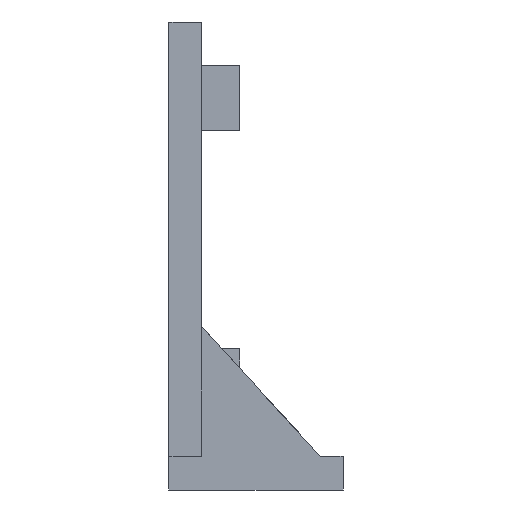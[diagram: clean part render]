
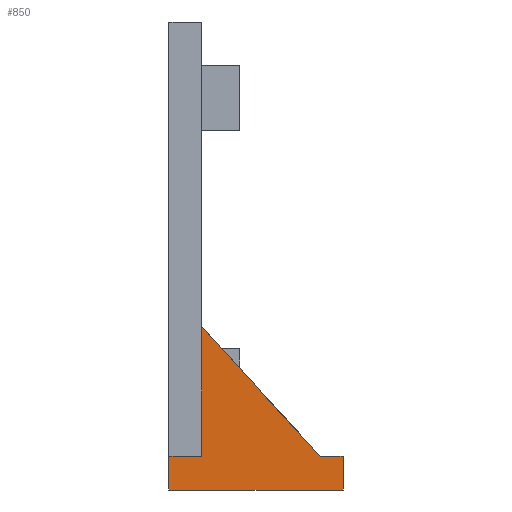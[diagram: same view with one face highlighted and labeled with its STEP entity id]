
A CAD part, left-side view. The second image highlights one B-rep face of the part: STEP entity #850.
In plain terms, the highlighted planar face has unit normal (-1, 0, 0).
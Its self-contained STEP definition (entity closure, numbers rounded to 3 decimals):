
#32 = PLANE('',#33);
#33 = AXIS2_PLACEMENT_3D('',#34,#35,#36);
#34 = CARTESIAN_POINT('',(-30.,34.,100.6));
#35 = DIRECTION('',(0.,1.,0.));
#36 = DIRECTION('',(0.,0.,1.));
#57 = VERTEX_POINT('',#58);
#58 = CARTESIAN_POINT('',(-31.,34.,97.6));
#72 = PLANE('',#73);
#73 = AXIS2_PLACEMENT_3D('',#74,#75,#76);
#74 = CARTESIAN_POINT('',(-31.,18.,97.6));
#75 = DIRECTION('',(0.,0.,1.));
#76 = DIRECTION('',(1.,0.,0.));
#84 = EDGE_CURVE('',#57,#85,#87,.T.);
#85 = VERTEX_POINT('',#86);
#86 = CARTESIAN_POINT('',(-31.,34.,100.7));
#87 = SURFACE_CURVE('',#88,(#92,#99),.PCURVE_S1.);
#88 = LINE('',#89,#90);
#89 = CARTESIAN_POINT('',(-31.,34.,97.6));
#90 = VECTOR('',#91,1.);
#91 = DIRECTION('',(0.,0.,1.));
#92 = PCURVE('',#32,#93);
#93 = DEFINITIONAL_REPRESENTATION('',(#94),#98);
#94 = LINE('',#95,#96);
#95 = CARTESIAN_POINT('',(-3.,-1.));
#96 = VECTOR('',#97,1.);
#97 = DIRECTION('',(1.,0.));
#98 = ( GEOMETRIC_REPRESENTATION_CONTEXT(2) 
PARAMETRIC_REPRESENTATION_CONTEXT() REPRESENTATION_CONTEXT('2D SPACE',''
  ) );
#99 = PCURVE('',#100,#105);
#100 = PLANE('',#101);
#101 = AXIS2_PLACEMENT_3D('',#102,#103,#104);
#102 = CARTESIAN_POINT('',(-31.,18.,97.6));
#103 = DIRECTION('',(1.,0.,0.));
#104 = DIRECTION('',(0.,0.,1.));
#105 = DEFINITIONAL_REPRESENTATION('',(#106),#110);
#106 = LINE('',#107,#108);
#107 = CARTESIAN_POINT('',(0.,-16.));
#108 = VECTOR('',#109,1.);
#109 = DIRECTION('',(1.,0.));
#110 = ( GEOMETRIC_REPRESENTATION_CONTEXT(2) 
PARAMETRIC_REPRESENTATION_CONTEXT() REPRESENTATION_CONTEXT('2D SPACE',''
  ) );
#128 = PLANE('',#129);
#129 = AXIS2_PLACEMENT_3D('',#130,#131,#132);
#130 = CARTESIAN_POINT('',(-31.,18.,100.7));
#131 = DIRECTION('',(0.,0.,1.));
#132 = DIRECTION('',(1.,0.,0.));
#617 = PLANE('',#618);
#618 = AXIS2_PLACEMENT_3D('',#619,#620,#621);
#619 = CARTESIAN_POINT('',(-31.,18.,100.7));
#620 = DIRECTION('',(0.,0.,1.));
#621 = DIRECTION('',(1.,0.,0.));
#645 = PLANE('',#646);
#646 = AXIS2_PLACEMENT_3D('',#647,#648,#649);
#647 = CARTESIAN_POINT('',(-31.,18.,97.6));
#648 = DIRECTION('',(0.,1.,0.));
#649 = DIRECTION('',(0.,0.,1.));
#727 = EDGE_CURVE('',#728,#57,#730,.T.);
#728 = VERTEX_POINT('',#729);
#729 = CARTESIAN_POINT('',(-31.,18.,97.6));
#730 = SURFACE_CURVE('',#731,(#735,#742),.PCURVE_S1.);
#731 = LINE('',#732,#733);
#732 = CARTESIAN_POINT('',(-31.,18.,97.6));
#733 = VECTOR('',#734,1.);
#734 = DIRECTION('',(0.,1.,0.));
#735 = PCURVE('',#72,#736);
#736 = DEFINITIONAL_REPRESENTATION('',(#737),#741);
#737 = LINE('',#738,#739);
#738 = CARTESIAN_POINT('',(0.,0.));
#739 = VECTOR('',#740,1.);
#740 = DIRECTION('',(0.,1.));
#741 = ( GEOMETRIC_REPRESENTATION_CONTEXT(2) 
PARAMETRIC_REPRESENTATION_CONTEXT() REPRESENTATION_CONTEXT('2D SPACE',''
  ) );
#742 = PCURVE('',#100,#743);
#743 = DEFINITIONAL_REPRESENTATION('',(#744),#748);
#744 = LINE('',#745,#746);
#745 = CARTESIAN_POINT('',(0.,0.));
#746 = VECTOR('',#747,1.);
#747 = DIRECTION('',(0.,-1.));
#748 = ( GEOMETRIC_REPRESENTATION_CONTEXT(2) 
PARAMETRIC_REPRESENTATION_CONTEXT() REPRESENTATION_CONTEXT('2D SPACE',''
  ) );
#850 = ADVANCED_FACE('',(#851),#100,.F.);
#851 = FACE_BOUND('',#852,.F.);
#852 = EDGE_LOOP('',(#853,#878,#899,#900,#901,#924,#952));
#853 = ORIENTED_EDGE('',*,*,#854,.F.);
#854 = EDGE_CURVE('',#855,#857,#859,.T.);
#855 = VERTEX_POINT('',#856);
#856 = CARTESIAN_POINT('',(-31.,18.,100.7));
#857 = VERTEX_POINT('',#858);
#858 = CARTESIAN_POINT('',(-31.,20.092,100.7));
#859 = SURFACE_CURVE('',#860,(#864,#871),.PCURVE_S1.);
#860 = LINE('',#861,#862);
#861 = CARTESIAN_POINT('',(-31.,18.,100.7));
#862 = VECTOR('',#863,1.);
#863 = DIRECTION('',(0.,1.,0.));
#864 = PCURVE('',#100,#865);
#865 = DEFINITIONAL_REPRESENTATION('',(#866),#870);
#866 = LINE('',#867,#868);
#867 = CARTESIAN_POINT('',(3.1,0.));
#868 = VECTOR('',#869,1.);
#869 = DIRECTION('',(0.,-1.));
#870 = ( GEOMETRIC_REPRESENTATION_CONTEXT(2) 
PARAMETRIC_REPRESENTATION_CONTEXT() REPRESENTATION_CONTEXT('2D SPACE',''
  ) );
#871 = PCURVE('',#617,#872);
#872 = DEFINITIONAL_REPRESENTATION('',(#873),#877);
#873 = LINE('',#874,#875);
#874 = CARTESIAN_POINT('',(0.,0.));
#875 = VECTOR('',#876,1.);
#876 = DIRECTION('',(0.,1.));
#877 = ( GEOMETRIC_REPRESENTATION_CONTEXT(2) 
PARAMETRIC_REPRESENTATION_CONTEXT() REPRESENTATION_CONTEXT('2D SPACE',''
  ) );
#878 = ORIENTED_EDGE('',*,*,#879,.F.);
#879 = EDGE_CURVE('',#728,#855,#880,.T.);
#880 = SURFACE_CURVE('',#881,(#885,#892),.PCURVE_S1.);
#881 = LINE('',#882,#883);
#882 = CARTESIAN_POINT('',(-31.,18.,97.6));
#883 = VECTOR('',#884,1.);
#884 = DIRECTION('',(0.,0.,1.));
#885 = PCURVE('',#100,#886);
#886 = DEFINITIONAL_REPRESENTATION('',(#887),#891);
#887 = LINE('',#888,#889);
#888 = CARTESIAN_POINT('',(0.,0.));
#889 = VECTOR('',#890,1.);
#890 = DIRECTION('',(1.,0.));
#891 = ( GEOMETRIC_REPRESENTATION_CONTEXT(2) 
PARAMETRIC_REPRESENTATION_CONTEXT() REPRESENTATION_CONTEXT('2D SPACE',''
  ) );
#892 = PCURVE('',#645,#893);
#893 = DEFINITIONAL_REPRESENTATION('',(#894),#898);
#894 = LINE('',#895,#896);
#895 = CARTESIAN_POINT('',(0.,0.));
#896 = VECTOR('',#897,1.);
#897 = DIRECTION('',(1.,0.));
#898 = ( GEOMETRIC_REPRESENTATION_CONTEXT(2) 
PARAMETRIC_REPRESENTATION_CONTEXT() REPRESENTATION_CONTEXT('2D SPACE',''
  ) );
#899 = ORIENTED_EDGE('',*,*,#727,.T.);
#900 = ORIENTED_EDGE('',*,*,#84,.T.);
#901 = ORIENTED_EDGE('',*,*,#902,.F.);
#902 = EDGE_CURVE('',#903,#85,#905,.T.);
#903 = VERTEX_POINT('',#904);
#904 = CARTESIAN_POINT('',(-31.,31.,100.7));
#905 = SURFACE_CURVE('',#906,(#910,#917),.PCURVE_S1.);
#906 = LINE('',#907,#908);
#907 = CARTESIAN_POINT('',(-31.,18.,100.7));
#908 = VECTOR('',#909,1.);
#909 = DIRECTION('',(0.,1.,0.));
#910 = PCURVE('',#100,#911);
#911 = DEFINITIONAL_REPRESENTATION('',(#912),#916);
#912 = LINE('',#913,#914);
#913 = CARTESIAN_POINT('',(3.1,0.));
#914 = VECTOR('',#915,1.);
#915 = DIRECTION('',(0.,-1.));
#916 = ( GEOMETRIC_REPRESENTATION_CONTEXT(2) 
PARAMETRIC_REPRESENTATION_CONTEXT() REPRESENTATION_CONTEXT('2D SPACE',''
  ) );
#917 = PCURVE('',#128,#918);
#918 = DEFINITIONAL_REPRESENTATION('',(#919),#923);
#919 = LINE('',#920,#921);
#920 = CARTESIAN_POINT('',(0.,0.));
#921 = VECTOR('',#922,1.);
#922 = DIRECTION('',(0.,1.));
#923 = ( GEOMETRIC_REPRESENTATION_CONTEXT(2) 
PARAMETRIC_REPRESENTATION_CONTEXT() REPRESENTATION_CONTEXT('2D SPACE',''
  ) );
#924 = ORIENTED_EDGE('',*,*,#925,.T.);
#925 = EDGE_CURVE('',#903,#926,#928,.T.);
#926 = VERTEX_POINT('',#927);
#927 = CARTESIAN_POINT('',(-31.,31.,112.6));
#928 = SURFACE_CURVE('',#929,(#933,#940),.PCURVE_S1.);
#929 = LINE('',#930,#931);
#930 = CARTESIAN_POINT('',(-31.,31.,100.6));
#931 = VECTOR('',#932,1.);
#932 = DIRECTION('',(0.,0.,1.));
#933 = PCURVE('',#100,#934);
#934 = DEFINITIONAL_REPRESENTATION('',(#935),#939);
#935 = LINE('',#936,#937);
#936 = CARTESIAN_POINT('',(3.,-13.));
#937 = VECTOR('',#938,1.);
#938 = DIRECTION('',(1.,0.));
#939 = ( GEOMETRIC_REPRESENTATION_CONTEXT(2) 
PARAMETRIC_REPRESENTATION_CONTEXT() REPRESENTATION_CONTEXT('2D SPACE',''
  ) );
#940 = PCURVE('',#941,#946);
#941 = PLANE('',#942);
#942 = AXIS2_PLACEMENT_3D('',#943,#944,#945);
#943 = CARTESIAN_POINT('',(-31.,31.,100.6));
#944 = DIRECTION('',(0.,-1.,0.));
#945 = DIRECTION('',(0.,0.,1.));
#946 = DEFINITIONAL_REPRESENTATION('',(#947),#951);
#947 = LINE('',#948,#949);
#948 = CARTESIAN_POINT('',(0.,0.));
#949 = VECTOR('',#950,1.);
#950 = DIRECTION('',(1.,0.));
#951 = ( GEOMETRIC_REPRESENTATION_CONTEXT(2) 
PARAMETRIC_REPRESENTATION_CONTEXT() REPRESENTATION_CONTEXT('2D SPACE',''
  ) );
#952 = ORIENTED_EDGE('',*,*,#953,.T.);
#953 = EDGE_CURVE('',#926,#857,#954,.T.);
#954 = SURFACE_CURVE('',#955,(#959,#966),.PCURVE_S1.);
#955 = LINE('',#956,#957);
#956 = CARTESIAN_POINT('',(-31.,31.,112.6));
#957 = VECTOR('',#958,1.);
#958 = DIRECTION('',(0.,-0.676,-0.737));
#959 = PCURVE('',#100,#960);
#960 = DEFINITIONAL_REPRESENTATION('',(#961),#965);
#961 = LINE('',#962,#963);
#962 = CARTESIAN_POINT('',(15.,-13.));
#963 = VECTOR('',#964,1.);
#964 = DIRECTION('',(-0.737,0.676));
#965 = ( GEOMETRIC_REPRESENTATION_CONTEXT(2) 
PARAMETRIC_REPRESENTATION_CONTEXT() REPRESENTATION_CONTEXT('2D SPACE',''
  ) );
#966 = PCURVE('',#967,#972);
#967 = PLANE('',#968);
#968 = AXIS2_PLACEMENT_3D('',#969,#970,#971);
#969 = CARTESIAN_POINT('',(-31.,31.,112.6));
#970 = DIRECTION('',(0.,0.737,-0.676));
#971 = DIRECTION('',(0.,-0.676,-0.737));
#972 = DEFINITIONAL_REPRESENTATION('',(#973),#977);
#973 = LINE('',#974,#975);
#974 = CARTESIAN_POINT('',(0.,0.));
#975 = VECTOR('',#976,1.);
#976 = DIRECTION('',(1.,0.));
#977 = ( GEOMETRIC_REPRESENTATION_CONTEXT(2) 
PARAMETRIC_REPRESENTATION_CONTEXT() REPRESENTATION_CONTEXT('2D SPACE',''
  ) );
